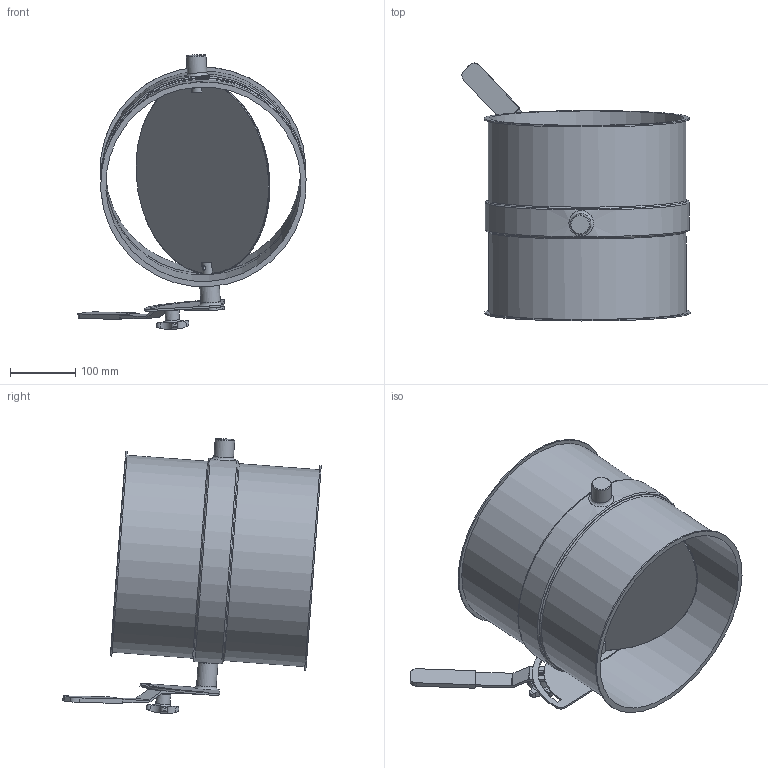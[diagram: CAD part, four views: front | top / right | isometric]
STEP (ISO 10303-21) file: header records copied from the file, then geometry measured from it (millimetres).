
FILE_DESCRIPTION((''),'2;1');
FILE_NAME('U:\Wolfgang\Marcel-3D\fertig\Kapitel 8\3021076.stp','2012-01-13T11:18:12',('iwienholt'),(''),'Autodesk Inventor 2010','Autodesk Inventor 2010','');
FILE_SCHEMA(('AUTOMOTIVE_DESIGN { 1 0 10303 214 1 1 1 1 }'));
Length unit declared in the file: millimetre
Products named in the file (7): 3021076; Bolzen D20; ganter_din_6335-ku-50-m10-k; Umstellsegment D20; Scheibe300b; Griff D20b; 3021076-1
Assembly tree (6 placements, depth 2):
  3021076
    Bolzen D20
    ganter_din_6335-ku-50-m10-k
    Umstellsegment D20
    Scheibe300b
    Griff D20b
    3021076-1
Bounding box: 349.47 x 395.8 x 421.13 mm (x, y, z)
Volume: 1140523.6 mm3; surface area: 890908.8 mm2
Topology: 6 solids, 6 shells, 137 faces, 334 edges, 222 vertices
Faces by surface type: cylinder 54, plane 53, torus 13, bspline 11, cone 5, sphere 1
Full cylindrical faces by diameter (mm): 6 x4, 8 x1, 9 x1, 10 x2, 16 x1, 20 x8, 22 x1, 30 x3, 299 x3, 300 x1, 303 x2, 308 x1, 309 x1, 313 x1, 315 x2
Entity records: 5161 total; most frequent: CARTESIAN_POINT 1984, DIRECTION 626, ORIENTED_EDGE 532, AXIS2_PLACEMENT_3D 270, EDGE_CURVE 266, EDGE_LOOP 228, VERTEX_POINT 206, FACE_OUTER_BOUND 137
